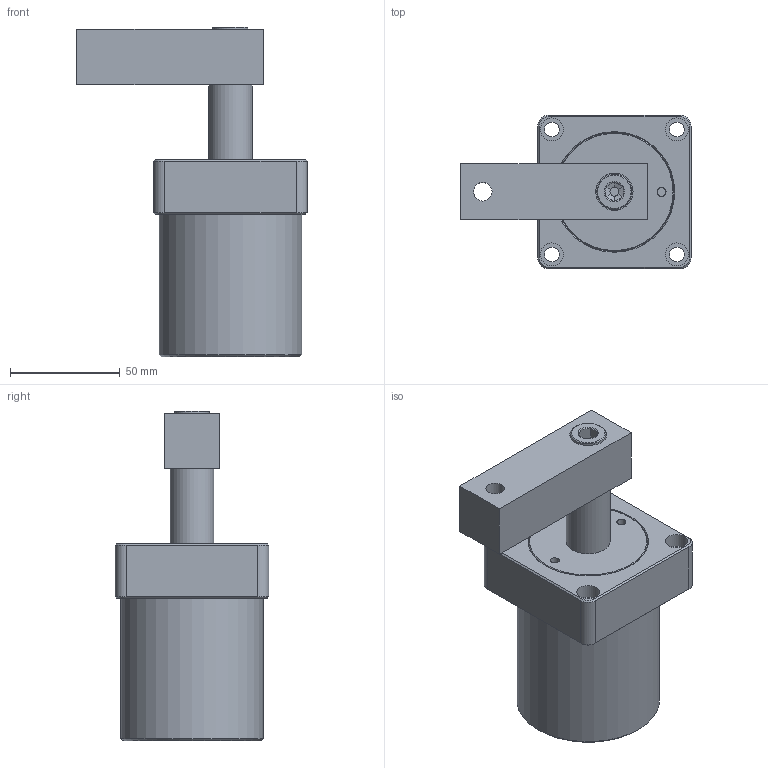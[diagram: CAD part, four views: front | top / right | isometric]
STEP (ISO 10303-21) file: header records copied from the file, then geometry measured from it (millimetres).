
FILE_DESCRIPTION(/* description */ ('Unknown'),/* implementation_level */ '2;1');
FILE_NAME(/* name */ 'ASC-FA50S-A',/* time_stamp */ '2019-05-24T10:35:35+08:00',/* author */ ('Unknown'),/* organization */ ('Unknown'),/* preprocessor_version */ 'ST-DEVELOPER v16.7',/* originating_system */ 'DEX',/* authorisation */ $);
FILE_SCHEMA (('AUTOMOTIVE_DESIGN {1 0 10303 214 3 1 1}'));
Length unit declared in the file: millimetre
Products named in the file (5): ASC-FA50S-A; ASC-FA50S-CYLINDER; ASC-5002-S-AXLE CENTRE; ASC-50S-A; ASC-5002-S-THREAD
Assembly tree (4 placements, depth 2):
  ASC-FA50S-A
    ASC-FA50S-CYLINDER
    ASC-5002-S-AXLE CENTRE
    ASC-50S-A
    ASC-5002-S-THREAD
Bounding box: 105 x 70 x 150.4 mm (x, y, z)
Volume: 335191.7 mm3; surface area: 69060.4 mm2
Topology: 4 solids, 4 shells, 109 faces, 215 edges, 132 vertices
Faces by surface type: plane 48, cylinder 27, cone 25, bspline 6, torus 3
Full cylindrical faces by diameter (mm): 4.1 x2, 6.8 x4, 8.5 x1, 9.147 x2, 10 x2, 10.5 x4, 11 x1, 16 x1, 17 x1, 20 x2, 50 x2, 65 x1
Entity records: 3471 total; most frequent: CARTESIAN_POINT 532, DIRECTION 460, ORIENTED_EDGE 332, AXIS2_PLACEMENT_3D 198, EDGE_LOOP 176, FACE_BOUND 176, EDGE_CURVE 166, VERTEX_POINT 120
